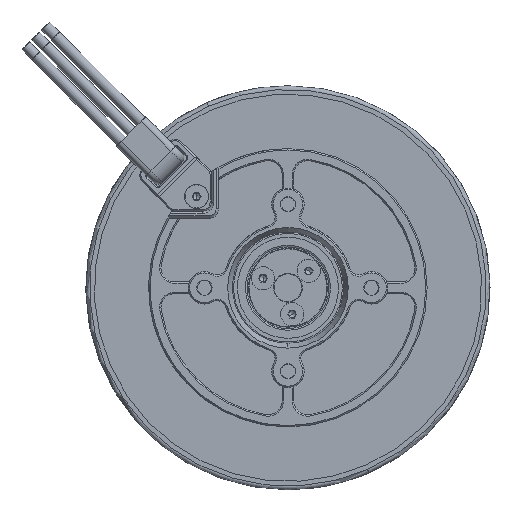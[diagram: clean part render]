
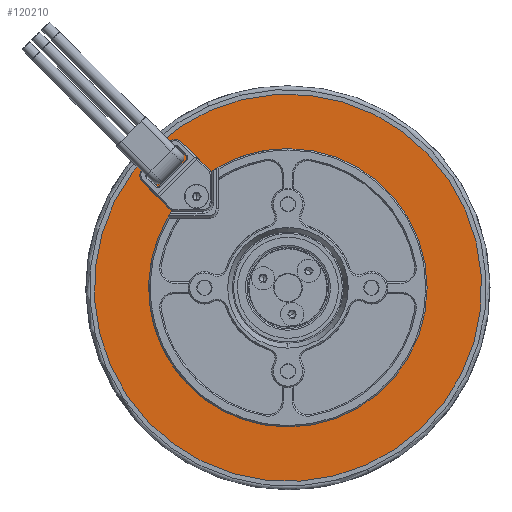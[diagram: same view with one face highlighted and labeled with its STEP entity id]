
A CAD part, front view. The second image highlights one B-rep face of the part: STEP entity #120210.
In plain terms, the highlighted planar face has unit normal (0, -1, 0).
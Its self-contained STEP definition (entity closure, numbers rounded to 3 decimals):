
#245 = AXIS2_PLACEMENT_3D ( 'NONE', #73479, #108750, #53442 ) ;
#4886 = FACE_OUTER_BOUND ( 'NONE', #118257, .T. ) ;
#5090 = AXIS2_PLACEMENT_3D ( 'NONE', #69931, #107001, #97886 ) ;
#10191 = CARTESIAN_POINT ( 'NONE',  ( 0., -0.9, -30. ) ) ;
#16949 = AXIS2_PLACEMENT_3D ( 'NONE', #88329, #115709, #62164 ) ;
#21434 = EDGE_CURVE ( 'NONE', #115355, #119102, #43021, .T. ) ;
#23687 = AXIS2_PLACEMENT_3D ( 'NONE', #39127, #67682, #76212 ) ;
#34579 = ORIENTED_EDGE ( 'NONE', *, *, #21434, .F. ) ;
#37662 = VERTEX_POINT ( 'NONE', #82834 ) ;
#39127 = CARTESIAN_POINT ( 'NONE',  ( 0., -0.9, 0. ) ) ;
#41964 = CIRCLE ( 'NONE', #109917, 30. ) ;
#43021 = CIRCLE ( 'NONE', #245, 30. ) ;
#47780 = VERTEX_POINT ( 'NONE', #98723 ) ;
#48443 = ORIENTED_EDGE ( 'NONE', *, *, #56813, .F. ) ;
#53442 = DIRECTION ( 'NONE',  ( 0., 0., 1. ) ) ;
#54283 = DIRECTION ( 'NONE',  ( 0., -1., 0. ) ) ;
#54952 = CARTESIAN_POINT ( 'NONE',  ( 0., -0.9, 30. ) ) ;
#56813 = EDGE_CURVE ( 'NONE', #47780, #37662, #63558, .T. ) ;
#62164 = DIRECTION ( 'NONE',  ( 0., 0., 1. ) ) ;
#63558 = CIRCLE ( 'NONE', #16949, 42.25 ) ;
#67682 = DIRECTION ( 'NONE',  ( 0., 1., 0. ) ) ;
#69931 = CARTESIAN_POINT ( 'NONE',  ( 0., -0.9, 0. ) ) ;
#71130 = PLANE ( 'NONE',  #5090 ) ;
#73479 = CARTESIAN_POINT ( 'NONE',  ( 0., -0.9, 0. ) ) ;
#76116 = CIRCLE ( 'NONE', #23687, 42.25 ) ;
#76212 = DIRECTION ( 'NONE',  ( 0., 0., 1. ) ) ;
#79912 = ORIENTED_EDGE ( 'NONE', *, *, #80823, .F. ) ;
#80221 = FACE_BOUND ( 'NONE', #103238, .T. ) ;
#80823 = EDGE_CURVE ( 'NONE', #119102, #115355, #41964, .T. ) ;
#82823 = DIRECTION ( 'NONE',  ( 0., 0., 1. ) ) ;
#82834 = CARTESIAN_POINT ( 'NONE',  ( 16.964, -0.9, -38.695 ) ) ;
#88329 = CARTESIAN_POINT ( 'NONE',  ( 0., -0.9, 0. ) ) ;
#94050 = EDGE_CURVE ( 'NONE', #37662, #47780, #76116, .T. ) ;
#97886 = DIRECTION ( 'NONE',  ( 0., 0., 1. ) ) ;
#98723 = CARTESIAN_POINT ( 'NONE',  ( -16.964, -0.9, 38.695 ) ) ;
#101065 = CARTESIAN_POINT ( 'NONE',  ( 0., -0.9, 0. ) ) ;
#103238 = EDGE_LOOP ( 'NONE', ( #79912, #34579 ) ) ;
#107001 = DIRECTION ( 'NONE',  ( 0., 1., 0. ) ) ;
#108750 = DIRECTION ( 'NONE',  ( 0., -1., 0. ) ) ;
#109917 = AXIS2_PLACEMENT_3D ( 'NONE', #101065, #54283, #82823 ) ;
#114479 = ORIENTED_EDGE ( 'NONE', *, *, #94050, .F. ) ;
#115355 = VERTEX_POINT ( 'NONE', #10191 ) ;
#115709 = DIRECTION ( 'NONE',  ( 0., 1., 0. ) ) ;
#118257 = EDGE_LOOP ( 'NONE', ( #114479, #48443 ) ) ;
#119102 = VERTEX_POINT ( 'NONE', #54952 ) ;
#120210 = ADVANCED_FACE ( 'NONE', ( #80221, #4886 ), #71130, .F. ) ;
